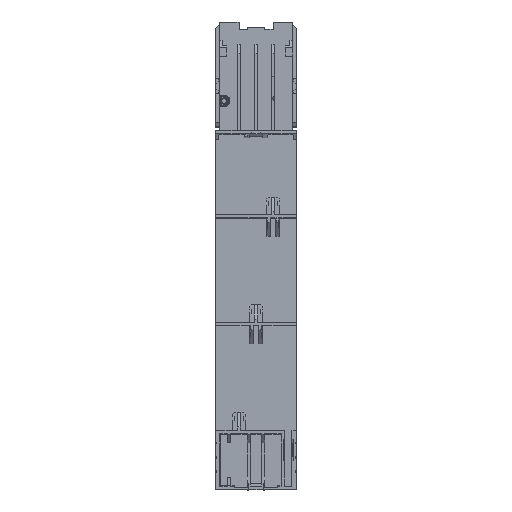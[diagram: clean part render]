
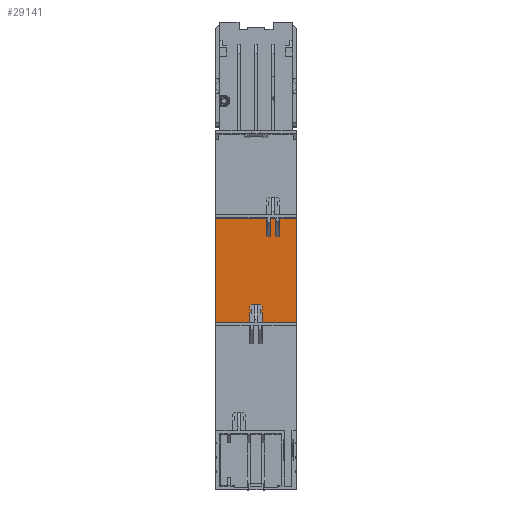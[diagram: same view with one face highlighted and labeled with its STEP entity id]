
A CAD part, front view. The second image highlights one B-rep face of the part: STEP entity #29141.
In plain terms, the highlighted planar face has unit normal (0, -1, 0).
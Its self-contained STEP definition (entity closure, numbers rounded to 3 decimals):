
#6524 = CARTESIAN_POINT ( 'NONE',  ( 31.5, -4., 141.166 ) ) ;
#6609 = CARTESIAN_POINT ( 'NONE',  ( 12.946, -4., 141.166 ) ) ;
#7389 = VECTOR ( 'NONE', #14832, 1000. ) ;
#8940 = VERTEX_POINT ( 'NONE', #32392 ) ;
#9946 = DIRECTION ( 'NONE',  ( 0., 1., 0. ) ) ;
#10138 = VERTEX_POINT ( 'NONE', #31462 ) ;
#11384 = EDGE_CURVE ( 'NONE', #34489, #64644, #13412, .T. ) ;
#12256 = EDGE_CURVE ( 'NONE', #8940, #87128, #74961, .T. ) ;
#12994 = LINE ( 'NONE', #35911, #61194 ) ;
#13412 = LINE ( 'NONE', #34077, #46987 ) ;
#13941 = VECTOR ( 'NONE', #76160, 1000. ) ;
#14487 = CARTESIAN_POINT ( 'NONE',  ( -22.5, -4., 151.204 ) ) ;
#14678 = DIRECTION ( 'NONE',  ( -1., 0., 0. ) ) ;
#14832 = DIRECTION ( 'NONE',  ( 1., 0., 0. ) ) ;
#15658 = DIRECTION ( 'NONE',  ( 0., 0., -1. ) ) ;
#15922 = EDGE_CURVE ( 'NONE', #24336, #34489, #63809, .T. ) ;
#16015 = VERTEX_POINT ( 'NONE', #25077 ) ;
#17769 = LINE ( 'NONE', #28736, #39030 ) ;
#19840 = ORIENTED_EDGE ( 'NONE', *, *, #38775, .T. ) ;
#20374 = DIRECTION ( 'NONE',  ( 1., 0., 0. ) ) ;
#21351 = ORIENTED_EDGE ( 'NONE', *, *, #41971, .F. ) ;
#21967 = LINE ( 'NONE', #35457, #7389 ) ;
#22660 = VERTEX_POINT ( 'NONE', #14487 ) ;
#22870 = ORIENTED_EDGE ( 'NONE', *, *, #25084, .F. ) ;
#23101 = CARTESIAN_POINT ( 'NONE',  ( 8.046, -4., 151.204 ) ) ;
#24336 = VERTEX_POINT ( 'NONE', #47410 ) ;
#24699 = VECTOR ( 'NONE', #27239, 1000. ) ;
#25044 = ORIENTED_EDGE ( 'NONE', *, *, #11384, .F. ) ;
#25077 = CARTESIAN_POINT ( 'NONE',  ( 6.054, -4., 141.166 ) ) ;
#25084 = EDGE_CURVE ( 'NONE', #63325, #24336, #89817, .T. ) ;
#27239 = DIRECTION ( 'NONE',  ( 1., 0., 0. ) ) ;
#27525 = CARTESIAN_POINT ( 'NONE',  ( -22.5, -4., 200. ) ) ;
#28068 = VECTOR ( 'NONE', #20374, 1000. ) ;
#28736 = CARTESIAN_POINT ( 'NONE',  ( 31.5, -4., 93. ) ) ;
#28926 = CARTESIAN_POINT ( 'NONE',  ( 22.5, -4., 200. ) ) ;
#29074 = EDGE_CURVE ( 'NONE', #76604, #16015, #42049, .T. ) ;
#29141 = ADVANCED_FACE ( 'NONE', ( #43213 ), #31231, .F. ) ;
#31070 = VERTEX_POINT ( 'NONE', #82181 ) ;
#31231 = PLANE ( 'NONE',  #57678 ) ;
#31462 = CARTESIAN_POINT ( 'NONE',  ( 8.046, -4., 141.166 ) ) ;
#31846 = CARTESIAN_POINT ( 'NONE',  ( 31.5, -4., 93. ) ) ;
#32392 = CARTESIAN_POINT ( 'NONE',  ( 22.5, -4., 93. ) ) ;
#34077 = CARTESIAN_POINT ( 'NONE',  ( 31.5, -4., 141.166 ) ) ;
#34489 = VERTEX_POINT ( 'NONE', #39910 ) ;
#35004 = DIRECTION ( 'NONE',  ( 0., 0., -1. ) ) ;
#35074 = ORIENTED_EDGE ( 'NONE', *, *, #41982, .T. ) ;
#35261 = ORIENTED_EDGE ( 'NONE', *, *, #72917, .F. ) ;
#35457 = CARTESIAN_POINT ( 'NONE',  ( 31.5, -4., 151.204 ) ) ;
#35911 = CARTESIAN_POINT ( 'NONE',  ( 8.046, -4., 93. ) ) ;
#37506 = VERTEX_POINT ( 'NONE', #88971 ) ;
#38364 = EDGE_CURVE ( 'NONE', #22660, #76604, #21967, .T. ) ;
#38775 = EDGE_CURVE ( 'NONE', #87128, #31070, #47672, .T. ) ;
#39030 = VECTOR ( 'NONE', #14678, 1000. ) ;
#39705 = CARTESIAN_POINT ( 'NONE',  ( 12.946, -4., 93. ) ) ;
#39762 = VECTOR ( 'NONE', #15658, 1000. ) ;
#39910 = CARTESIAN_POINT ( 'NONE',  ( 10.954, -4., 141.166 ) ) ;
#40106 = DIRECTION ( 'NONE',  ( -1., 0., 0. ) ) ;
#40243 = EDGE_LOOP ( 'NONE', ( #75043, #19840, #54964, #25044, #72745, #22870, #55809, #21351, #74288, #86187, #35074, #35261 ) ) ;
#41666 = CARTESIAN_POINT ( 'NONE',  ( 31.5, -4., 151.204 ) ) ;
#41971 = EDGE_CURVE ( 'NONE', #16015, #10138, #49330, .T. ) ;
#41982 = EDGE_CURVE ( 'NONE', #22660, #37506, #86429, .T. ) ;
#42049 = LINE ( 'NONE', #58582, #39762 ) ;
#43213 = FACE_OUTER_BOUND ( 'NONE', #40243, .T. ) ;
#46987 = VECTOR ( 'NONE', #84291, 1000. ) ;
#47410 = CARTESIAN_POINT ( 'NONE',  ( 10.954, -4., 151.204 ) ) ;
#47672 = LINE ( 'NONE', #75928, #54440 ) ;
#49330 = LINE ( 'NONE', #6524, #24699 ) ;
#49747 = DIRECTION ( 'NONE',  ( 0., 0., 1. ) ) ;
#50267 = CARTESIAN_POINT ( 'NONE',  ( 6.054, -4., 151.204 ) ) ;
#54440 = VECTOR ( 'NONE', #40106, 1000. ) ;
#54479 = EDGE_CURVE ( 'NONE', #64644, #31070, #61074, .T. ) ;
#54861 = CARTESIAN_POINT ( 'NONE',  ( 22.5, -4., 151.204 ) ) ;
#54964 = ORIENTED_EDGE ( 'NONE', *, *, #54479, .F. ) ;
#55809 = ORIENTED_EDGE ( 'NONE', *, *, #83779, .F. ) ;
#56126 = VECTOR ( 'NONE', #35004, 1000. ) ;
#57678 = AXIS2_PLACEMENT_3D ( 'NONE', #31846, #9946, #82675 ) ;
#58582 = CARTESIAN_POINT ( 'NONE',  ( 6.054, -4., 93. ) ) ;
#61074 = LINE ( 'NONE', #39705, #13941 ) ;
#61194 = VECTOR ( 'NONE', #49747, 1000. ) ;
#63325 = VERTEX_POINT ( 'NONE', #23101 ) ;
#63809 = LINE ( 'NONE', #82254, #89621 ) ;
#64644 = VERTEX_POINT ( 'NONE', #6609 ) ;
#72701 = VECTOR ( 'NONE', #79787, 1000. ) ;
#72745 = ORIENTED_EDGE ( 'NONE', *, *, #15922, .F. ) ;
#72917 = EDGE_CURVE ( 'NONE', #8940, #37506, #17769, .T. ) ;
#74288 = ORIENTED_EDGE ( 'NONE', *, *, #29074, .F. ) ;
#74961 = LINE ( 'NONE', #28926, #72701 ) ;
#75043 = ORIENTED_EDGE ( 'NONE', *, *, #12256, .T. ) ;
#75928 = CARTESIAN_POINT ( 'NONE',  ( 27.593, -4., 151.204 ) ) ;
#76160 = DIRECTION ( 'NONE',  ( 0., 0., 1. ) ) ;
#76604 = VERTEX_POINT ( 'NONE', #50267 ) ;
#79787 = DIRECTION ( 'NONE',  ( 0., 0., 1. ) ) ;
#82181 = CARTESIAN_POINT ( 'NONE',  ( 12.946, -4., 151.204 ) ) ;
#82254 = CARTESIAN_POINT ( 'NONE',  ( 10.954, -4., 93. ) ) ;
#82675 = DIRECTION ( 'NONE',  ( 0., 0., 1. ) ) ;
#83779 = EDGE_CURVE ( 'NONE', #10138, #63325, #12994, .T. ) ;
#84291 = DIRECTION ( 'NONE',  ( 1., 0., 0. ) ) ;
#86187 = ORIENTED_EDGE ( 'NONE', *, *, #38364, .F. ) ;
#86429 = LINE ( 'NONE', #27525, #56126 ) ;
#87128 = VERTEX_POINT ( 'NONE', #54861 ) ;
#88971 = CARTESIAN_POINT ( 'NONE',  ( -22.5, -4., 93. ) ) ;
#89621 = VECTOR ( 'NONE', #90074, 1000. ) ;
#89817 = LINE ( 'NONE', #41666, #28068 ) ;
#90074 = DIRECTION ( 'NONE',  ( 0., 0., -1. ) ) ;
